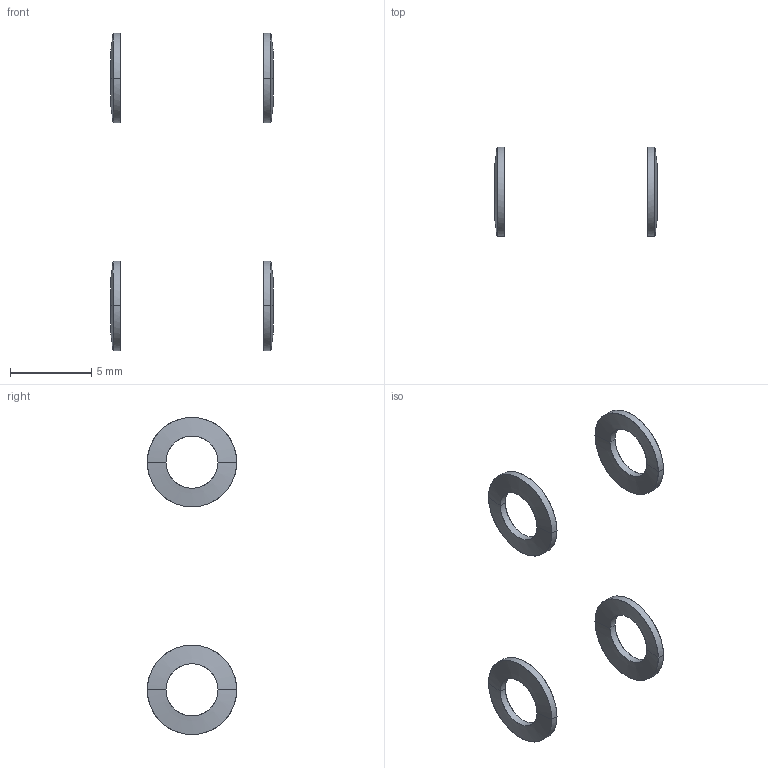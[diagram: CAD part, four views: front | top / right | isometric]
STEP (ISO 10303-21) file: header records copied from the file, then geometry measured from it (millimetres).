
FILE_DESCRIPTION(/* description */ (''),/* implementation_level */ '2;1');
FILE_NAME(/* name */ '6.y-drive#6.12#GTS3',/* time_stamp */ '2014-12-01T20:16:36+01:00',/* author */ (''),/* organization */ (''),/* preprocessor_version */ 'ST-DEVELOPER v14',/* originating_system */ '',/* authorisation */ '');
FILE_SCHEMA (('AUTOMOTIVE_DESIGN'));
Length unit declared in the file: millimetre
Products named in the file (2): Document; washer Schnorr-like, lock, M3
Assembly tree (2 placements, depth 2):
  Document
    washer Schnorr-like, lock, M3  x2
Bounding box: 10 x 5.5 x 19.49 mm (x, y, z)
Surface area: 176.1 mm2 (no closed solid volume)
Topology: 0 solids, 32 shells, 32 faces, 128 edges, 128 vertices
Faces by surface type: bspline 32
Entity records: 2175 total; most frequent: CARTESIAN_POINT 1061, B_SPLINE_CURVE_WITH_KNOTS 144, ORIENTED_EDGE 96, PCURVE 96, DEFINITIONAL_REPRESENTATION 96, SURFACE_CURVE 96, EDGE_CURVE 96, VERTEX_POINT 96
